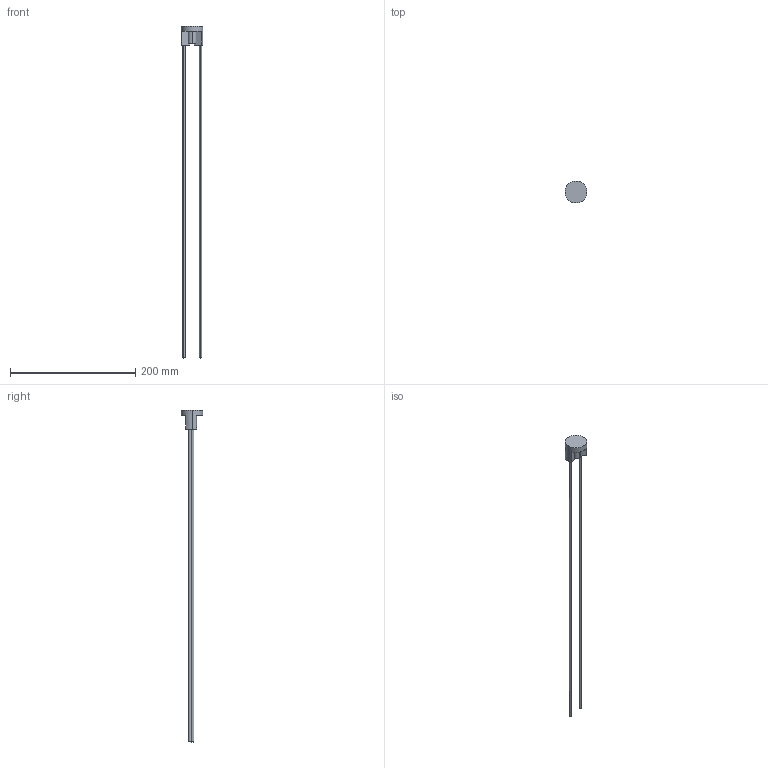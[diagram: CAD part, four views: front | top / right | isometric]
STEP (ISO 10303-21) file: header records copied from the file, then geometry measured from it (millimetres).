
FILE_DESCRIPTION (( 'STEP AP203' ), '1' );
FILE_NAME ('FR-3PRNA.STEP', '2016-06-21T01:02:42', ( '' ), ( '' ), 'SwSTEP 2.0', 'SolidWorks 2014', '' );
FILE_SCHEMA (( 'CONFIG_CONTROL_DESIGN' ));
Length unit declared in the file: metre
Products named in the file (1): FR-3PRNA
Bounding box: 35 x 35 x 530.7 mm (x, y, z)
Volume: 29224.5 mm3; surface area: 18087 mm2
Topology: 1 solids, 1 shells, 34 faces, 81 edges, 54 vertices
Faces by surface type: cylinder 17, plane 17
Entity records: 1084 total; most frequent: DIRECTION 193, CARTESIAN_POINT 170, ORIENTED_EDGE 162, EDGE_CURVE 81, AXIS2_PLACEMENT_3D 77, VERTEX_POINT 54, CIRCLE 42, LINE 39
